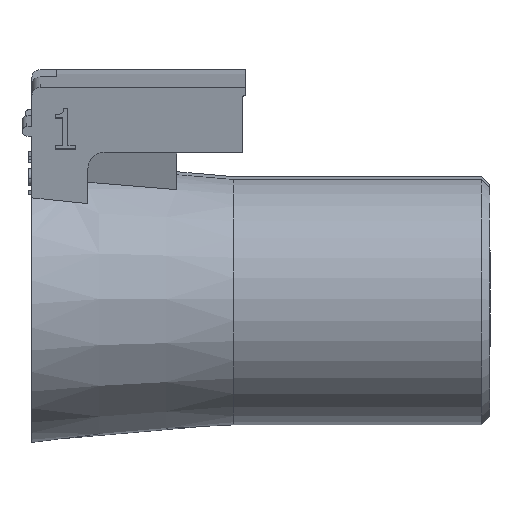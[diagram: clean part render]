
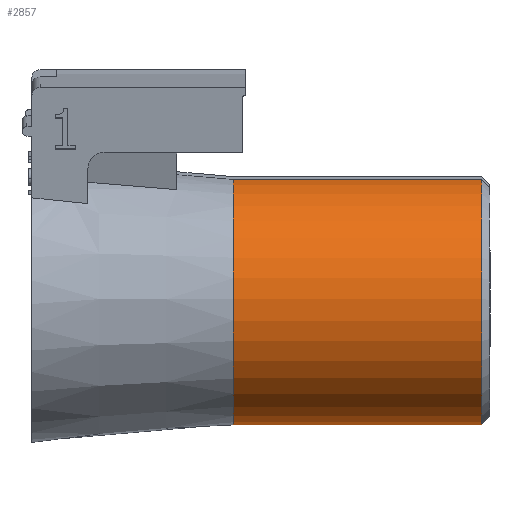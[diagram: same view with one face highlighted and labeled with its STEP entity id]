
A CAD part, front view. The second image highlights one B-rep face of the part: STEP entity #2857.
In plain terms, the highlighted cylindrical face has radius 7.5 mm (diameter 15 mm), a partial arc.
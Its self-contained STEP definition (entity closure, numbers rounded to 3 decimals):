
#69=CIRCLE('',#2997,7.5);
#77=CIRCLE('',#3016,7.5);
#104=CYLINDRICAL_SURFACE('',#3017,7.5);
#425=FACE_OUTER_BOUND('',#583,.T.);
#583=EDGE_LOOP('',(#2531,#2532,#2533,#2534));
#791=LINE('',#4951,#1039);
#836=LINE('',#5083,#1084);
#1039=VECTOR('',#3399,10.);
#1084=VECTOR('',#3516,10.);
#1412=VERTEX_POINT('',#4948);
#1413=VERTEX_POINT('',#4950);
#1439=VERTEX_POINT('',#5020);
#1454=VERTEX_POINT('',#5078);
#1773=EDGE_CURVE('',#1413,#1412,#791,.T.);
#1809=EDGE_CURVE('',#1439,#1412,#69,.T.);
#1836=EDGE_CURVE('',#1413,#1454,#77,.T.);
#1837=EDGE_CURVE('',#1454,#1439,#836,.T.);
#2531=ORIENTED_EDGE('',*,*,#1837,.F.);
#2532=ORIENTED_EDGE('',*,*,#1836,.F.);
#2533=ORIENTED_EDGE('',*,*,#1773,.T.);
#2534=ORIENTED_EDGE('',*,*,#1809,.F.);
#2857=ADVANCED_FACE('',(#425),#104,.T.);
#2997=AXIS2_PLACEMENT_3D('',#5025,#3458,#3459);
#3016=AXIS2_PLACEMENT_3D('',#5081,#3512,#3513);
#3017=AXIS2_PLACEMENT_3D('',#5082,#3514,#3515);
#3399=DIRECTION('',(-1.,0.,0.));
#3458=DIRECTION('center_axis',(-1.,0.,0.));
#3459=DIRECTION('ref_axis',(0.,-0.985,-0.174));
#3512=DIRECTION('center_axis',(1.,0.,0.));
#3513=DIRECTION('ref_axis',(0.,0.985,0.174));
#3514=DIRECTION('center_axis',(-1.,0.,0.));
#3515=DIRECTION('ref_axis',(0.,-0.985,-0.174));
#3516=DIRECTION('',(-1.,0.,0.));
#4948=CARTESIAN_POINT('',(11.43,-2.066,7.319));
#4950=CARTESIAN_POINT('',(26.5,-2.066,7.319));
#4951=CARTESIAN_POINT('',(19.215,-2.066,7.319));
#5020=CARTESIAN_POINT('',(11.43,0.271,-7.495));
#5025=CARTESIAN_POINT('Origin',(11.43,-0.764,-0.067));
#5078=CARTESIAN_POINT('',(26.5,0.271,-7.495));
#5081=CARTESIAN_POINT('Origin',(26.5,-0.764,-0.067));
#5082=CARTESIAN_POINT('Origin',(19.215,-0.764,-0.067));
#5083=CARTESIAN_POINT('',(19.215,0.271,-7.495));
